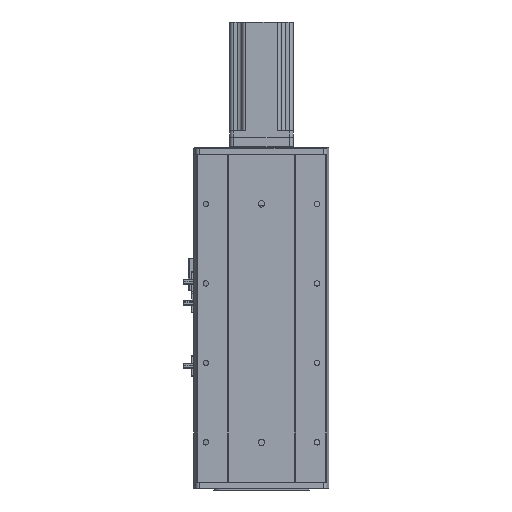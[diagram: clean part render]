
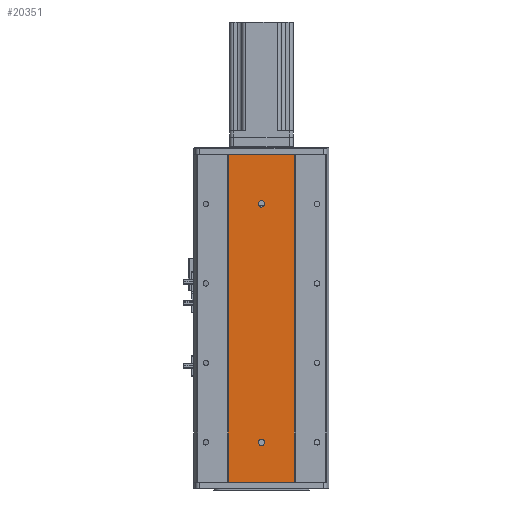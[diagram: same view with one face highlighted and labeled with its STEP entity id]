
A CAD part, front view. The second image highlights one B-rep face of the part: STEP entity #20351.
In plain terms, the highlighted planar face has unit normal (0, -1, 0).
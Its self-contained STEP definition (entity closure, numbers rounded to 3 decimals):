
#6444 = FACE_BOUND ( 'NONE', #7420, .T. ) ;
#6477 = FACE_BOUND ( 'NONE', #7320, .T. ) ;
#6478 = FACE_OUTER_BOUND ( 'NONE', #7400, .T. ) ;
#7320 = EDGE_LOOP ( 'NONE', ( #46974, #46910 ) ) ;
#7400 = EDGE_LOOP ( 'NONE', ( #46914, #46958, #46902, #46903 ) ) ;
#7420 = EDGE_LOOP ( 'NONE', ( #46912, #46938 ) ) ;
#7932 = LINE ( 'NONE', #11338, #7962 ) ;
#7962 = VECTOR ( 'NONE', #11339, 1000. ) ;
#7973 = CIRCLE ( 'NONE', #23836, 4. ) ;
#7977 = CIRCLE ( 'NONE', #23870, 4. ) ;
#7988 = VECTOR ( 'NONE', #11401, 1000. ) ;
#8027 = LINE ( 'NONE', #11395, #7988 ) ;
#8635 = VERTEX_POINT ( 'NONE', #30313 ) ;
#8682 = VERTEX_POINT ( 'NONE', #30376 ) ;
#8861 = VERTEX_POINT ( 'NONE', #30614 ) ;
#9037 = VERTEX_POINT ( 'NONE', #37415 ) ;
#9097 = VERTEX_POINT ( 'NONE', #36647 ) ;
#9158 = VERTEX_POINT ( 'NONE', #36662 ) ;
#11338 = CARTESIAN_POINT ( 'NONE',  ( 5168.555, 335.574, 412. ) ) ;
#11339 = DIRECTION ( 'NONE',  ( 0., 0., -1. ) ) ;
#11376 = CARTESIAN_POINT ( 'NONE',  ( 5126.969, 335.574, 350. ) ) ;
#11387 = DIRECTION ( 'NONE',  ( 0., 1., 0. ) ) ;
#11391 = DIRECTION ( 'NONE',  ( -1., 0., 0. ) ) ;
#11395 = CARTESIAN_POINT ( 'NONE',  ( 5085.384, 335.574, 412. ) ) ;
#11401 = DIRECTION ( 'NONE',  ( 0., 0., -1. ) ) ;
#11415 = DIRECTION ( 'NONE',  ( 0., 1., 0. ) ) ;
#11430 = CARTESIAN_POINT ( 'NONE',  ( 5126.969, 335.574, 50. ) ) ;
#11431 = DIRECTION ( 'NONE',  ( -1., 0., 0. ) ) ;
#12346 = EDGE_CURVE ( 'NONE', #8682, #17305, #7932, .T. ) ;
#12358 = EDGE_CURVE ( 'NONE', #9097, #8861, #7973, .T. ) ;
#12374 = EDGE_CURVE ( 'NONE', #8635, #17390, #8027, .T. ) ;
#12375 = EDGE_CURVE ( 'NONE', #9158, #9037, #7977, .T. ) ;
#17305 = VERTEX_POINT ( 'NONE', #50424 ) ;
#17390 = VERTEX_POINT ( 'NONE', #50739 ) ;
#20351 = ADVANCED_FACE ( 'NONE', ( #6477, #6444, #6478 ), #51078, .F. ) ;
#23836 = AXIS2_PLACEMENT_3D ( 'NONE', #11376, #11387, #11391 ) ;
#23870 = AXIS2_PLACEMENT_3D ( 'NONE', #11430, #11415, #11431 ) ;
#24263 = AXIS2_PLACEMENT_3D ( 'NONE', #51073, #51033, #51014 ) ;
#30313 = CARTESIAN_POINT ( 'NONE',  ( 5085.384, 335.574, 412. ) ) ;
#30376 = CARTESIAN_POINT ( 'NONE',  ( 5168.555, 335.574, 412. ) ) ;
#30614 = CARTESIAN_POINT ( 'NONE',  ( 5126.969, 335.574, 346. ) ) ;
#31911 = DIRECTION ( 'NONE',  ( 1., 0., 0. ) ) ;
#31929 = CARTESIAN_POINT ( 'NONE',  ( 5085.384, 335.574, 412. ) ) ;
#32206 = CARTESIAN_POINT ( 'NONE',  ( 5085.384, 335.574, 0. ) ) ;
#32209 = DIRECTION ( 'NONE',  ( 1., 0., 0. ) ) ;
#36647 = CARTESIAN_POINT ( 'NONE',  ( 5126.969, 335.574, 354. ) ) ;
#36662 = CARTESIAN_POINT ( 'NONE',  ( 5126.969, 335.574, 54. ) ) ;
#37415 = CARTESIAN_POINT ( 'NONE',  ( 5126.969, 335.574, 46. ) ) ;
#37829 = EDGE_CURVE ( 'NONE', #8861, #9097, #55798, .T. ) ;
#37849 = EDGE_CURVE ( 'NONE', #9037, #9158, #55833, .T. ) ;
#38331 = EDGE_CURVE ( 'NONE', #8635, #8682, #57079, .T. ) ;
#38452 = EDGE_CURVE ( 'NONE', #17390, #17305, #57309, .T. ) ;
#46902 = ORIENTED_EDGE ( 'NONE', *, *, #38331, .F. ) ;
#46903 = ORIENTED_EDGE ( 'NONE', *, *, #12374, .T. ) ;
#46910 = ORIENTED_EDGE ( 'NONE', *, *, #12358, .T. ) ;
#46912 = ORIENTED_EDGE ( 'NONE', *, *, #37849, .T. ) ;
#46914 = ORIENTED_EDGE ( 'NONE', *, *, #38452, .T. ) ;
#46938 = ORIENTED_EDGE ( 'NONE', *, *, #12375, .T. ) ;
#46958 = ORIENTED_EDGE ( 'NONE', *, *, #12346, .F. ) ;
#46974 = ORIENTED_EDGE ( 'NONE', *, *, #37829, .T. ) ;
#49054 = CARTESIAN_POINT ( 'NONE',  ( 5126.969, 335.574, 350. ) ) ;
#49057 = DIRECTION ( 'NONE',  ( 0., 1., 0. ) ) ;
#49140 = DIRECTION ( 'NONE',  ( -1., 0., 0. ) ) ;
#49162 = DIRECTION ( 'NONE',  ( -1., 0., 0. ) ) ;
#49187 = CARTESIAN_POINT ( 'NONE',  ( 5126.969, 335.574, 50. ) ) ;
#49202 = DIRECTION ( 'NONE',  ( 0., 1., 0. ) ) ;
#49429 = AXIS2_PLACEMENT_3D ( 'NONE', #49054, #49057, #49140 ) ;
#49432 = AXIS2_PLACEMENT_3D ( 'NONE', #49187, #49202, #49162 ) ;
#50424 = CARTESIAN_POINT ( 'NONE',  ( 5168.555, 335.574, 0. ) ) ;
#50739 = CARTESIAN_POINT ( 'NONE',  ( 5085.384, 335.574, 0. ) ) ;
#51014 = DIRECTION ( 'NONE',  ( -1., 0., 0. ) ) ;
#51033 = DIRECTION ( 'NONE',  ( 0., 1., 0. ) ) ;
#51073 = CARTESIAN_POINT ( 'NONE',  ( 5085.384, 335.574, 412. ) ) ;
#51078 = PLANE ( 'NONE',  #24263 ) ;
#55798 = CIRCLE ( 'NONE', #49429, 4. ) ;
#55833 = CIRCLE ( 'NONE', #49432, 4. ) ;
#57079 = LINE ( 'NONE', #31929, #57125 ) ;
#57125 = VECTOR ( 'NONE', #31911, 1000. ) ;
#57283 = VECTOR ( 'NONE', #32209, 1000. ) ;
#57309 = LINE ( 'NONE', #32206, #57283 ) ;
